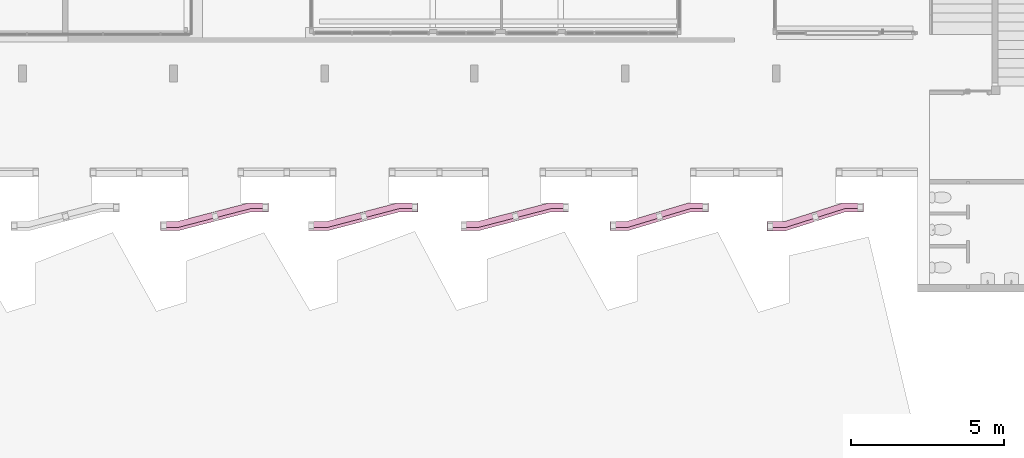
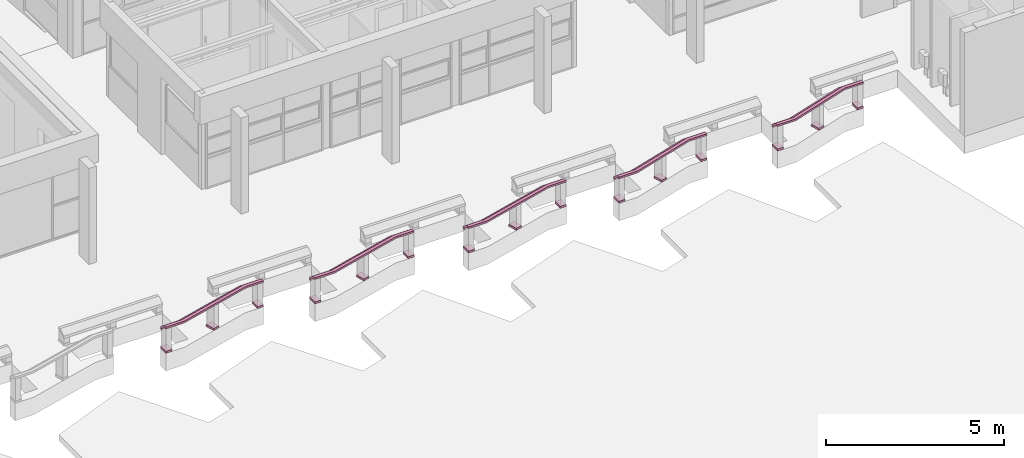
# One storey, part 116 of 117: 5 furniture elements.
"""IFC4 building model written with IfcOpenShell, lengths in metres."""

from ifc_helpers import new_model, entity, si_unit, converted_unit, derived_unit, direction, frame, origin, place, context, subcontext, project, spatial, polygons, source, transform, mapped, material, type_object, type_shapes, element, save


model = new_model("IFC4")

# Units and contexts
model_context = context("Model", 3, precision=1e-05, world=origin(), true_north=direction((6.123031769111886e-17, 1.0)))
body_context = subcontext(model_context, "Body", "Model", "MODEL_VIEW")
ifc_project = project(units=[si_unit("LENGTHUNIT", "METRE"), si_unit("AREAUNIT", "SQUARE_METRE"), si_unit("VOLUMEUNIT", "CUBIC_METRE"), converted_unit("PLANEANGLEUNIT", "DEGREE", entity("IfcRatioMeasure", 0.017453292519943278), si_unit("PLANEANGLEUNIT", "RADIAN"), dimensions=[0, 0, 0, 0, 0, 0, 0]), si_unit("MASSUNIT", "GRAM", prefix="KILO"), derived_unit("MASSDENSITYUNIT", [(si_unit("MASSUNIT", "GRAM", prefix="KILO"), 1), (si_unit("LENGTHUNIT", "METRE"), -3)]), derived_unit("MOMENTOFINERTIAUNIT", [(si_unit("LENGTHUNIT", "METRE"), 4)]), si_unit("TIMEUNIT", "SECOND"), si_unit("FREQUENCYUNIT", "HERTZ"), si_unit("THERMODYNAMICTEMPERATUREUNIT", "DEGREE_CELSIUS"), derived_unit("THERMALTRANSMITTANCEUNIT", [(si_unit("MASSUNIT", "GRAM", prefix="KILO"), 1), (si_unit("THERMODYNAMICTEMPERATUREUNIT", "KELVIN"), -1), (si_unit("TIMEUNIT", "SECOND"), -3)]), derived_unit("VOLUMETRICFLOWRATEUNIT", [(si_unit("LENGTHUNIT", "METRE"), 3), (si_unit("TIMEUNIT", "SECOND"), -1)]), derived_unit("MASSFLOWRATEUNIT", [(si_unit("MASSUNIT", "GRAM", prefix="KILO"), 1), (si_unit("TIMEUNIT", "SECOND"), -1)]), derived_unit("ROTATIONALFREQUENCYUNIT", [(si_unit("TIMEUNIT", "SECOND"), -1)]), si_unit("ELECTRICCURRENTUNIT", "AMPERE"), si_unit("ELECTRICVOLTAGEUNIT", "VOLT"), si_unit("POWERUNIT", "WATT"), si_unit("FORCEUNIT", "NEWTON", prefix="KILO"), si_unit("ILLUMINANCEUNIT", "LUX"), si_unit("LUMINOUSFLUXUNIT", "LUMEN"), si_unit("LUMINOUSINTENSITYUNIT", "CANDELA"), derived_unit("USERDEFINED", [(si_unit("MASSUNIT", "GRAM", prefix="KILO"), -1), (si_unit("LENGTHUNIT", "METRE"), -2), (si_unit("TIMEUNIT", "SECOND"), 3), (si_unit("LUMINOUSFLUXUNIT", "LUMEN"), 1)]), derived_unit("SOUNDPOWERUNIT", [(si_unit("MASSUNIT", "GRAM", prefix="KILO"), 1), (si_unit("LENGTHUNIT", "METRE"), 2), (si_unit("TIMEUNIT", "SECOND"), -3)]), derived_unit("SOUNDPRESSUREUNIT", [(si_unit("MASSUNIT", "GRAM", prefix="KILO"), 1), (si_unit("LENGTHUNIT", "METRE"), -1), (si_unit("TIMEUNIT", "SECOND"), -2)]), derived_unit("LINEARVELOCITYUNIT", [(si_unit("LENGTHUNIT", "METRE"), 1), (si_unit("TIMEUNIT", "SECOND"), -1)]), si_unit("PRESSUREUNIT", "PASCAL"), derived_unit("USERDEFINED", [(si_unit("LENGTHUNIT", "METRE"), -2), (si_unit("MASSUNIT", "GRAM", prefix="KILO"), 1), (si_unit("TIMEUNIT", "SECOND"), -2)]), derived_unit("LINEARFORCEUNIT", [(si_unit("MASSUNIT", "GRAM", prefix="KILO"), 1), (si_unit("LENGTHUNIT", "METRE"), 1), (si_unit("TIMEUNIT", "SECOND"), -2), (si_unit("LENGTHUNIT", "METRE"), -1)]), derived_unit("PLANARFORCEUNIT", [(si_unit("MASSUNIT", "GRAM", prefix="KILO"), 1), (si_unit("LENGTHUNIT", "METRE"), 1), (si_unit("TIMEUNIT", "SECOND"), -2), (si_unit("LENGTHUNIT", "METRE"), -2)])], contexts=[model_context])

# Site, building, storey
site_placement = place(None, origin())
site = spatial("IfcSite", under=ifc_project, at=site_placement, Name="Superficie", CompositionType="ELEMENT")
building_placement = place(site_placement, origin())
building = spatial("IfcBuilding", under=site, at=building_placement, CompositionType="ELEMENT")
storey_placement = place(building_placement, origin())
storey = spatial("IfcBuildingStorey", under=building, at=storey_placement, Name="Nivel 0", CompositionType="ELEMENT", Elevation=0.0)

# Furniture
ifc_material = material(Name="Madera - Listel", Category="Madera")
furniture_type_1 = type_object("IfcFurnitureType", Name="baranda andenes13:baranda andenes", AssemblyPlace="NOTDEFINED", PredefinedType="NOTDEFINED", material=ifc_material)
shared_shape_1 = source(origin(), body_context, "Body", "Tessellation", [
    polygons([(3.329999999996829, 0.9099999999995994, 0.07), (3.329999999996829, 0.6099999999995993, 0.07), (3.529999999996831, 0.6099999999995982, 0.07), (3.529999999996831, 0.9099999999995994, 0.07), (3.42999999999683, 0.9099999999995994, 0.07), (3.329999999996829, 0.9099999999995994, 0.0), (3.329999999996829, 0.6099999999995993, 0.0), (3.529999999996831, 0.6099999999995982, 0.0), (3.529999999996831, 0.9099999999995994, 0.0), (3.42999999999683, 0.9099999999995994, 0.0)], [[[1, 2, 3, 4, 5]], [[2, 1, 6, 7]], [[3, 2, 7, 8]], [[4, 3, 8, 9]], [[5, 4, 9, 10]], [[1, 5, 10, 6]], [[6, 10, 9, 8, 7]]], closed=True),
    polygons([(0.0, 0.30000000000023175, 0.0), (0.20000000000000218, 0.30000000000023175, 0.0), (0.20000000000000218, 2.306506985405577e-13, 0.0), (0.0, 2.31733565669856e-13, 0.0), (0.0, 2.31733565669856e-13, 0.07), (0.0, 0.30000000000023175, 0.07), (0.20000000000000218, 2.306506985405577e-13, 0.07), (0.20000000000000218, 0.30000000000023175, 0.07)], [[[1, 2, 3, 4]], [[5, 6, 1, 4]], [[7, 5, 4, 3]], [[8, 7, 3, 2]], [[6, 8, 2, 1]], [[6, 5, 7, 8]]], closed=True),
    polygons([(1.7262694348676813, 0.29246973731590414, 0.07), (1.6399062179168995, 0.5798751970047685, 0.07), (1.6399062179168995, 0.5798751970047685, 0.0), (1.7262694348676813, 0.29246973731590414, 0.0), (1.919853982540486, 0.3427193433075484, 0.07), (1.919853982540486, 0.3427193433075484, 0.0), (1.8445085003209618, 0.6329847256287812, 0.07), (1.8445085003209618, 0.6329847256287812, 0.0), (1.736698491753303, 0.6050000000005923, 0.07), (1.736698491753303, 0.6050000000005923, 0.0)], [[[1, 2, 3, 4]], [[5, 1, 4, 6]], [[7, 5, 6, 8]], [[9, 7, 8, 10]], [[2, 9, 10, 3]], [[3, 10, 8, 6, 4]], [[2, 1, 5, 7, 9]]], closed=True),
    polygons([(5.414335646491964e-16, 0.10384615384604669, 0.9000000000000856), (5.414335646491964e-16, 0.3000000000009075, 0.7499999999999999), (5.414335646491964e-16, 0.30000000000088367, 0.66), (5.414335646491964e-16, 0.240000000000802, 0.6600000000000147), (5.414335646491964e-16, 0.24000000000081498, 0.7100000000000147), (0.0, 0.07000000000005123, 0.8399999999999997), (0.0, 5.089475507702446e-14, 0.8400000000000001), (0.0, 1.0828671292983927e-15, 0.8999999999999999), (3.5299999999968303, 0.7138461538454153, 0.9000000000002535), (3.5299999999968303, 0.6099999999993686, 0.9000000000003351), (3.5299999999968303, 0.6099999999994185, 0.8399999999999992), (3.5299999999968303, 0.6799999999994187, 0.8399999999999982), (3.529999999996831, 0.8500000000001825, 0.7100000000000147), (3.529999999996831, 0.8500000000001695, 0.6599999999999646), (3.5299999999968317, 0.9100000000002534, 0.6599999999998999), (3.529999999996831, 0.9100000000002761, 0.7499999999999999), (2.9116984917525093, 0.9100000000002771, 0.7499999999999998), (2.9367417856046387, 0.7138461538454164, 0.9000000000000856), (2.911698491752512, 0.9100000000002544, 0.6599999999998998), (2.9193587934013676, 0.8500000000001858, 0.7100000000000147), (2.919358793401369, 0.8500000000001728, 0.6600000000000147), (2.9410629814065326, 0.6799999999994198, 0.8399999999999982), (2.9499999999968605, 0.6099999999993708, 0.9000000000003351), (2.949999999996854, 0.6099999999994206, 0.8400000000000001), (0.5867417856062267, 0.10384615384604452, 0.9000000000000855), (0.5616984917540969, 0.3000000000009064, 0.7499999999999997), (0.561698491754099, 0.30000000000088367, 0.66), (0.5693587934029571, 0.240000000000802, 0.6600000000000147), (0.5693587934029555, 0.2400000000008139, 0.7100000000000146), (0.5910629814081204, 0.07000000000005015, 0.8399999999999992), (0.5999999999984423, 4.981188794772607e-14, 0.8400000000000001), (0.5999999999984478, -1.0828671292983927e-15, 0.8999999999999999)], [[[1, 2, 3, 4, 5, 6, 7, 8]], [[9, 10, 11, 12, 13, 14, 15, 16]], [[17, 18, 9, 16]], [[19, 17, 16, 15]], [[20, 21, 14, 13]], [[22, 20, 13, 12]], [[23, 24, 11, 10]], [[2, 1, 25, 26]], [[3, 2, 26, 27]], [[4, 3, 27, 19, 15, 14, 21, 28]], [[5, 4, 28, 29]], [[6, 5, 29, 30]], [[7, 6, 30, 22, 12, 11, 24, 31]], [[8, 7, 31, 32]], [[1, 8, 32, 23, 10, 9, 18, 25]], [[26, 25, 18, 17]], [[27, 26, 17, 19]], [[29, 28, 21, 20]], [[30, 29, 20, 22]], [[32, 31, 24, 23]]], closed=True),
])
type_shapes(furniture_type_1, [shared_shape_1])
furniture_1_placement = place(storey_placement, frame((-4.212859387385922, -8.194170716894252, 0.0)))
element("IfcFurniture", 1, at=furniture_1_placement, inside=storey, type_object=furniture_type_1, material=ifc_material, Name="baranda andenes13:baranda andenes", ObjectType="baranda andenes13:baranda andenes", PredefinedType="NOTDEFINED", context=body_context, shape_type="MappedRepresentation", body=[
    mapped(shared_shape_1, transform((0.0, 0.0, 0.0), scale=1.0)),
])
furniture_type_2 = type_object("IfcFurnitureType", Name="baranda andenes14:baranda andenes", AssemblyPlace="NOTDEFINED", PredefinedType="NOTDEFINED", material=ifc_material)
shared_shape_2 = source(origin(), body_context, "Body", "Tessellation", [
    polygons([(3.3899999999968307, 0.9099999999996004, 0.07), (3.3899999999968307, 0.6099999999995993, 0.07), (3.589999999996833, 0.6099999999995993, 0.07), (3.589999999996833, 0.9099999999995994, 0.07), (3.4899999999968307, 0.9099999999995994, 0.07), (3.3899999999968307, 0.9099999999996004, 0.0), (3.3899999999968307, 0.6099999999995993, 0.0), (3.589999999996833, 0.6099999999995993, 0.0), (3.589999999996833, 0.9099999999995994, 0.0), (3.4899999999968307, 0.9099999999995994, 0.0)], [[[1, 2, 3, 4, 5]], [[2, 1, 6, 7]], [[3, 2, 7, 8]], [[4, 3, 8, 9]], [[5, 4, 9, 10]], [[1, 5, 10, 6]], [[6, 10, 9, 8, 7]]], closed=True),
    polygons([(1.6243006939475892e-15, 0.30000000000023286, 0.0), (0.2000000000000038, 0.30000000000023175, 0.0), (0.2000000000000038, 2.31733565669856e-13, 0.0), (1.6243006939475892e-15, 2.31733565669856e-13, 0.0), (1.6243006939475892e-15, 2.31733565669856e-13, 0.07), (1.6243006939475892e-15, 0.30000000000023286, 0.07), (0.2000000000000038, 2.31733565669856e-13, 0.07), (0.2000000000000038, 0.30000000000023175, 0.07)], [[[1, 2, 3, 4]], [[5, 6, 1, 4]], [[7, 5, 4, 3]], [[8, 7, 3, 2]], [[6, 8, 2, 1]], [[6, 5, 7, 8]]], closed=True),
    polygons([(1.7606208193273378, 0.28945437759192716, 0.07), (1.6846407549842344, 0.5796733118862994, 0.07), (1.6846407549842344, 0.5796733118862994, 0.0), (1.7606208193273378, 0.28945437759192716, 0.0), (1.954100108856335, 0.34010775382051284, 0.07), (1.954100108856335, 0.34010775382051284, 0.0), (1.8781200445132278, 0.6303266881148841, 0.07), (1.8781200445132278, 0.6303266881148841, 0.0), (1.7813803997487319, 0.6050000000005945, 0.07), (1.7813803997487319, 0.6050000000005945, 0.0)], [[[1, 2, 3, 4]], [[5, 1, 4, 6]], [[7, 5, 6, 8]], [[9, 7, 8, 10]], [[2, 9, 10, 3]], [[3, 10, 8, 6, 4]], [[2, 1, 5, 7, 9]]], closed=True),
    polygons([(6.767919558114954e-16, 0.10384615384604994, 0.9000000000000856), (1.0828671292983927e-15, 0.30000000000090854, 0.7499999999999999), (1.0828671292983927e-15, 0.3000000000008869, 0.66), (9.475087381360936e-16, 0.24000000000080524, 0.6600000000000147), (9.475087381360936e-16, 0.24000000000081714, 0.7100000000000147), (5.414335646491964e-16, 0.0700000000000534, 0.8399999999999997), (4.060751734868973e-16, 5.306048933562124e-14, 0.8400000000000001), (4.060751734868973e-16, 4.331468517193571e-15, 0.8999999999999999), (3.5849999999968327, 0.7138461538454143, 0.9000000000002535), (3.584999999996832, 0.6099999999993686, 0.9000000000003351), (3.584999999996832, 0.6099999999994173, 0.8399999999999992), (3.584999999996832, 0.6799999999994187, 0.8399999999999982), (3.5849999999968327, 0.8500000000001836, 0.7100000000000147), (3.5849999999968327, 0.8500000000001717, 0.6599999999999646), (3.5849999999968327, 0.9100000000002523, 0.6599999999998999), (3.5849999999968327, 0.910000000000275, 0.7499999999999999), (2.9463803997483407, 0.9100000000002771, 0.7499999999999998), (2.9716316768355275, 0.7138461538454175, 0.9000000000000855), (2.9463803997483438, 0.9100000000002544, 0.6599999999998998), (2.954104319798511, 0.8500000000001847, 0.7100000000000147), (2.954104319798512, 0.850000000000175, 0.6600000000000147), (2.9759887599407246, 0.679999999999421, 0.8399999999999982), (2.98499999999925, 0.6099999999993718, 0.9000000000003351), (2.984999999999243, 0.6099999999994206, 0.8400000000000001), (0.6416316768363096, 0.10384615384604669, 0.9000000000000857), (0.6163803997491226, 0.3000000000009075, 0.7500000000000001), (0.6163803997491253, 0.3000000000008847, 0.66), (0.6241043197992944, 0.24000000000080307, 0.6600000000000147), (0.624104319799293, 0.24000000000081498, 0.7100000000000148), (0.6459887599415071, 0.07000000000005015, 0.8400000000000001), (0.6550000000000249, 4.981188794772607e-14, 0.8400000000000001), (0.6550000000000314, 1.0828671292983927e-15, 0.8999999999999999)], [[[1, 2, 3, 4, 5, 6, 7, 8]], [[9, 10, 11, 12, 13, 14, 15, 16]], [[17, 18, 9, 16]], [[19, 17, 16, 15]], [[20, 21, 14, 13]], [[22, 20, 13, 12]], [[23, 24, 11, 10]], [[2, 1, 25, 26]], [[3, 2, 26, 27]], [[4, 3, 27, 19, 15, 14, 21, 28]], [[5, 4, 28, 29]], [[6, 5, 29, 30]], [[7, 6, 30, 22, 12, 11, 24, 31]], [[8, 7, 31, 32]], [[1, 8, 32, 23, 10, 9, 18, 25]], [[26, 25, 18, 17]], [[27, 26, 17, 19]], [[29, 28, 21, 20]], [[30, 29, 20, 22]], [[32, 31, 24, 23]]], closed=True),
])
type_shapes(furniture_type_2, [shared_shape_2])
furniture_2_placement = place(storey_placement, frame((0.627140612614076, -8.194170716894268, 0.0)))
element("IfcFurniture", 2, at=furniture_2_placement, inside=storey, type_object=furniture_type_2, material=ifc_material, Name="baranda andenes14:baranda andenes", ObjectType="baranda andenes14:baranda andenes", PredefinedType="NOTDEFINED", context=body_context, shape_type="MappedRepresentation", body=[
    mapped(shared_shape_2, transform((0.0, 0.0, 0.0), scale=1.0)),
])
furniture_type_3 = type_object("IfcFurnitureType", Name="baranda andenes15:baranda andenes", AssemblyPlace="NOTDEFINED", PredefinedType="NOTDEFINED", material=ifc_material)
shared_shape_3 = source(origin(), body_context, "Body", "Tessellation", [
    polygons([(3.3299999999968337, 0.909999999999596, 0.07), (3.3299999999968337, 0.6099999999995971, 0.07), (3.5299999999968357, 0.609999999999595, 0.07), (3.5299999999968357, 0.909999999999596, 0.07), (3.429999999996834, 0.909999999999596, 0.07), (3.3299999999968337, 0.909999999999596, 0.0), (3.3299999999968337, 0.6099999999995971, 0.0), (3.5299999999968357, 0.609999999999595, 0.0), (3.5299999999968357, 0.909999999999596, 0.0), (3.429999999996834, 0.909999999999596, 0.0)], [[[1, 2, 3, 4, 5]], [[2, 1, 6, 7]], [[3, 2, 7, 8]], [[4, 3, 8, 9]], [[5, 4, 9, 10]], [[1, 5, 10, 6]], [[6, 10, 9, 8, 7]]], closed=True),
    polygons([(5.4143356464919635e-15, 0.30000000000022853, 0.0), (0.2000000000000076, 0.30000000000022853, 0.0), (0.2000000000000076, 2.274020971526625e-13, 0.0), (5.4143356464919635e-15, 2.295678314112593e-13, 0.0), (5.4143356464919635e-15, 2.295678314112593e-13, 0.07), (5.4143356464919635e-15, 0.30000000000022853, 0.07), (0.2000000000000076, 2.274020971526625e-13, 0.07), (0.2000000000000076, 0.30000000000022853, 0.07)], [[[1, 2, 3, 4]], [[5, 6, 1, 4]], [[7, 5, 4, 3]], [[8, 7, 3, 2]], [[6, 8, 2, 1]], [[6, 5, 7, 8]]], closed=True),
    polygons([(1.7262694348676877, 0.292469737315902, 0.07), (1.639906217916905, 0.5798751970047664, 0.07), (1.639906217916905, 0.5798751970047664, 0.0), (1.7262694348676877, 0.292469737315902, 0.0), (1.9198539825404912, 0.34271934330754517, 0.07), (1.9198539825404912, 0.34271934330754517, 0.0), (1.8445085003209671, 0.6329847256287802, 0.07), (1.8445085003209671, 0.6329847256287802, 0.0), (1.7366984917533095, 0.6050000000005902, 0.07), (1.7366984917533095, 0.6050000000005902, 0.0)], [[[1, 2, 3, 4]], [[5, 1, 4, 6]], [[7, 5, 6, 8]], [[9, 7, 8, 10]], [[2, 9, 10, 3]], [[3, 10, 8, 6, 4]], [[2, 1, 5, 7, 9]]], closed=True),
    polygons([(2.1657342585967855e-15, 0.10384615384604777, 0.9000000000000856), (2.1657342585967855e-15, 0.30000000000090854, 0.7499999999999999), (2.1657342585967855e-15, 0.30000000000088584, 0.66), (2.1657342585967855e-15, 0.24000000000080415, 0.6600000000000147), (2.1657342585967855e-15, 0.24000000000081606, 0.7100000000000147), (2.1657342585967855e-15, 0.0700000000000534, 0.8399999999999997), (2.1657342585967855e-15, 5.1977622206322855e-14, 0.8400000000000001), (2.1657342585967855e-15, 2.1657342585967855e-15, 0.8999999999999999), (3.5299999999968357, 0.7138461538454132, 0.900000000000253), (3.5299999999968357, 0.6099999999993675, 0.9000000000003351), (3.5299999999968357, 0.6099999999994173, 0.8399999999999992), (3.5299999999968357, 0.6799999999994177, 0.8399999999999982), (3.529999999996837, 0.8500000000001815, 0.7100000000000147), (3.529999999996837, 0.8500000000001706, 0.6599999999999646), (3.529999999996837, 0.91000000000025, 0.6599999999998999), (3.529999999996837, 0.9100000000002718, 0.7499999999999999), (2.911698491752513, 0.9100000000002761, 0.7500000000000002), (2.936741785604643, 0.7138461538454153, 0.9000000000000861), (2.911698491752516, 0.9100000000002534, 0.6599999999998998), (2.919358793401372, 0.8500000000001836, 0.7100000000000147), (2.9193587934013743, 0.8500000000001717, 0.6600000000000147), (2.9410629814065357, 0.679999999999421, 0.8399999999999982), (2.949999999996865, 0.6099999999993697, 0.9000000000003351), (2.9499999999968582, 0.6099999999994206, 0.8400000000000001), (0.586741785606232, 0.10384615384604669, 0.9000000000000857), (0.5616984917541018, 0.3000000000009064, 0.7499999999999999), (0.561698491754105, 0.3000000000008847, 0.66), (0.569358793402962, 0.24000000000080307, 0.6600000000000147), (0.5693587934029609, 0.2400000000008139, 0.7100000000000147), (0.5910629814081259, 0.07000000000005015, 0.8399999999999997), (0.5999999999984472, 4.981188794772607e-14, 0.8400000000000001), (0.5999999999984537, 0.0, 0.8999999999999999)], [[[1, 2, 3, 4, 5, 6, 7, 8]], [[9, 10, 11, 12, 13, 14, 15, 16]], [[17, 18, 9, 16]], [[19, 17, 16, 15]], [[20, 21, 14, 13]], [[22, 20, 13, 12]], [[23, 24, 11, 10]], [[2, 1, 25, 26]], [[3, 2, 26, 27]], [[4, 3, 27, 19, 15, 14, 21, 28]], [[5, 4, 28, 29]], [[6, 5, 29, 30]], [[7, 6, 30, 22, 12, 11, 24, 31]], [[8, 7, 31, 32]], [[1, 8, 32, 23, 10, 9, 18, 25]], [[26, 25, 18, 17]], [[27, 26, 17, 19]], [[29, 28, 21, 20]], [[30, 29, 20, 22]], [[32, 31, 24, 23]]], closed=True),
])
type_shapes(furniture_type_3, [shared_shape_3])
furniture_3_placement = place(storey_placement, frame((5.62714061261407, -8.19417071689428, 0.0)))
element("IfcFurniture", 3, at=furniture_3_placement, inside=storey, type_object=furniture_type_3, material=ifc_material, Name="baranda andenes15:baranda andenes", ObjectType="baranda andenes15:baranda andenes", PredefinedType="NOTDEFINED", context=body_context, shape_type="MappedRepresentation", body=[
    mapped(shared_shape_3, transform((0.0, 0.0, 0.0), scale=1.0)),
])
furniture_type_4 = type_object("IfcFurnitureType", Name="baranda andenes16:baranda andenes", AssemblyPlace="NOTDEFINED", PredefinedType="NOTDEFINED", material=ifc_material)
shared_shape_4 = source(origin(), body_context, "Body", "Tessellation", [
    polygons([(3.019999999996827, 0.9099999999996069, 0.07), (3.019999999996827, 0.6099999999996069, 0.07), (3.2199999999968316, 0.6099999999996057, 0.07), (3.2199999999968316, 0.9099999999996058, 0.07), (3.1199999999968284, 0.9099999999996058, 0.07), (3.019999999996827, 0.9099999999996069, 0.0), (3.019999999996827, 0.6099999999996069, 0.0), (3.2199999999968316, 0.6099999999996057, 0.0), (3.2199999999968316, 0.9099999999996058, 0.0), (3.1199999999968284, 0.9099999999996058, 0.0)], [[[1, 2, 3, 4, 5]], [[2, 1, 6, 7]], [[3, 2, 7, 8]], [[4, 3, 8, 9]], [[5, 4, 9, 10]], [[1, 5, 10, 6]], [[6, 10, 9, 8, 7]]], closed=True),
    polygons([(0.0, 0.30000000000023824, 0.0), (0.20000000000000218, 0.3000000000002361, 0.0), (0.20000000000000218, 2.37147901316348e-13, 0.0), (0.0, 2.382307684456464e-13, 0.0), (0.0, 2.382307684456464e-13, 0.07), (0.0, 0.30000000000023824, 0.07), (0.20000000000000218, 2.37147901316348e-13, 0.07), (0.20000000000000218, 0.3000000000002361, 0.07)], [[[1, 2, 3, 4]], [[5, 6, 1, 4]], [[7, 5, 4, 3]], [[8, 7, 3, 2]], [[6, 8, 2, 1]], [[6, 5, 7, 8]]], closed=True),
    polygons([(1.5614646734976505, 0.28891302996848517, 0.07), (1.4751304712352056, 0.576221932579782, 0.07), (1.4751304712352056, 0.576221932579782, 0.0), (1.5614646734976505, 0.28891302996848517, 0.0), (1.7530039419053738, 0.3464691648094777, 0.07), (1.7530039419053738, 0.3464691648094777, 0.0), (1.6666697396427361, 0.6337780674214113, 0.07), (1.6666697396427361, 0.6337780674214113, 0.0), (1.570900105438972, 0.6050000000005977, 0.07), (1.570900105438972, 0.6050000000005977, 0.0)], [[[1, 2, 3, 4]], [[5, 1, 4, 6]], [[7, 5, 6, 8]], [[9, 7, 8, 10]], [[2, 9, 10, 3]], [[3, 10, 8, 6, 4]], [[2, 1, 5, 7, 9]]], closed=True),
    polygons([(1.0828671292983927e-14, 0.10384615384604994, 0.9000000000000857), (1.0828671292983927e-14, 0.3000000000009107, 0.7500000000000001), (1.0828671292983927e-14, 0.300000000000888, 0.66), (1.0828671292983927e-14, 0.24000000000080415, 0.6600000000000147), (1.0828671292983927e-14, 0.24000000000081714, 0.7100000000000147), (1.0828671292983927e-14, 0.0700000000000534, 0.8399999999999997), (1.0828671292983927e-14, 5.306048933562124e-14, 0.8400000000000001), (1.0828671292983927e-14, 3.2486013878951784e-15, 0.8999999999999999), (3.2199999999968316, 0.7138461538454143, 0.9000000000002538), (3.2199999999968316, 0.6099999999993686, 0.9000000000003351), (3.2199999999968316, 0.6099999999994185, 0.8399999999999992), (3.2199999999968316, 0.6799999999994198, 0.8399999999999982), (3.2199999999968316, 0.8500000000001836, 0.7100000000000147), (3.2199999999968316, 0.8500000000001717, 0.6599999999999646), (3.2199999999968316, 0.9100000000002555, 0.6599999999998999), (3.2199999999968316, 0.9100000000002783, 0.7499999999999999), (2.5859001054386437, 0.9100000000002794, 0.7500000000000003), (2.6147346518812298, 0.7138461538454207, 0.9000000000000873), (2.5859001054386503, 0.9100000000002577, 0.6599999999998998), (2.594720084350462, 0.8500000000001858, 0.7100000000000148), (2.594720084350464, 0.850000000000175, 0.6600000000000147), (2.6197100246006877, 0.6799999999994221, 0.8399999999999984), (2.6299999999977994, 0.6099999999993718, 0.9000000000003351), (2.629999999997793, 0.6099999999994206, 0.8400000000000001), (0.5847346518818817, 0.10384615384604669, 0.9000000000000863), (0.5559001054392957, 0.30000000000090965, 0.7499999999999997), (0.5559001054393, 0.30000000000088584, 0.66), (0.5647200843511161, 0.24000000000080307, 0.6600000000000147), (0.5647200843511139, 0.24000000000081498, 0.7100000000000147), (0.5897100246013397, 0.07000000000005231, 0.8399999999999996), (0.599999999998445, 5.089475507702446e-14, 0.8400000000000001), (0.5999999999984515, 0.0, 0.8999999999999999)], [[[1, 2, 3, 4, 5, 6, 7, 8]], [[9, 10, 11, 12, 13, 14, 15, 16]], [[17, 18, 9, 16]], [[19, 17, 16, 15]], [[20, 21, 14, 13]], [[22, 20, 13, 12]], [[23, 24, 11, 10]], [[2, 1, 25, 26]], [[3, 2, 26, 27]], [[4, 3, 27, 19, 15, 14, 21, 28]], [[5, 4, 28, 29]], [[6, 5, 29, 30]], [[7, 6, 30, 22, 12, 11, 24, 31]], [[8, 7, 31, 32]], [[1, 8, 32, 23, 10, 9, 18, 25]], [[26, 25, 18, 17]], [[27, 26, 17, 19]], [[29, 28, 21, 20]], [[30, 29, 20, 22]], [[32, 31, 24, 23]]], closed=True),
])
type_shapes(furniture_type_4, [shared_shape_4])
furniture_4_placement = place(storey_placement, frame((10.517140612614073, -8.194170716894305, 0.0)))
element("IfcFurniture", 4, at=furniture_4_placement, inside=storey, type_object=furniture_type_4, material=ifc_material, Name="baranda andenes16:baranda andenes", ObjectType="baranda andenes16:baranda andenes", PredefinedType="NOTDEFINED", context=body_context, shape_type="MappedRepresentation", body=[
    mapped(shared_shape_4, transform((0.0, 0.0, 0.0), scale=1.0)),
])
furniture_type_5 = type_object("IfcFurnitureType", Name="baranda andenes17:baranda andenes", AssemblyPlace="NOTDEFINED", PredefinedType="NOTDEFINED", material=ifc_material)
shared_shape_5 = source(origin(), body_context, "Body", "Tessellation", [
    polygons([(2.954658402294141, 0.9199697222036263, 0.07), (2.954658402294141, 0.6199697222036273, 0.07), (3.154658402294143, 0.6199697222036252, 0.07), (3.154658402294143, 0.9199697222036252, 0.07), (3.054658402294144, 0.9199697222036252, 0.07), (2.954658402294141, 0.9199697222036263, 0.0), (2.954658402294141, 0.6199697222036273, 0.0), (3.154658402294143, 0.6199697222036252, 0.0), (3.154658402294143, 0.9199697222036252, 0.0), (3.054658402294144, 0.9199697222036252, 0.0)], [[[1, 2, 3, 4, 5]], [[2, 1, 6, 7]], [[3, 2, 7, 8]], [[4, 3, 8, 9]], [[5, 4, 9, 10]], [[1, 5, 10, 6]], [[6, 10, 9, 8, 7]]], closed=True),
    polygons([(1.5983118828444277e-12, 0.3000000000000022, 0.0), (0.20000000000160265, 0.3000000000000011, 0.0), (0.20000000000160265, 1.0828671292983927e-15, 0.0), (1.5983118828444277e-12, 1.0828671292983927e-15, 0.0), (1.5983118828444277e-12, 1.0828671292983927e-15, 0.07), (1.5983118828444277e-12, 0.3000000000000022, 0.07), (0.20000000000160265, 1.0828671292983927e-15, 0.07), (0.20000000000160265, 0.3000000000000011, 0.07)], [[[1, 2, 3, 4]], [[5, 6, 1, 4]], [[7, 5, 4, 3]], [[8, 7, 3, 2]], [[6, 8, 2, 1]], [[6, 5, 7, 8]]], closed=True),
    polygons([(1.5240693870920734, 0.2937877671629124, 0.07), (1.4331741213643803, 0.579686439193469, 0.07), (1.4331741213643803, 0.579686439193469, 0.0), (1.5240693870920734, 0.2937877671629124, 0.0), (1.715608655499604, 0.3513439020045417, 0.07), (1.715608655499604, 0.3513439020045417, 0.0), (1.6237491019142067, 0.6402756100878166, 0.07), (1.6237491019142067, 0.6402756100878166, 0.0), (1.5284736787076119, 0.6099848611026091, 0.07), (1.5284736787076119, 0.6099848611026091, 0.0)], [[[1, 2, 3, 4]], [[5, 1, 4, 6]], [[7, 5, 6, 8]], [[9, 7, 8, 10]], [[2, 9, 10, 3]], [[3, 10, 8, 6, 4]], [[2, 1, 5, 7, 9]]], closed=True),
    polygons([(4.331468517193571e-15, 0.10384615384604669, 0.9000000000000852), (6.497202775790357e-15, 0.30000000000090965, 0.7499999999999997), (6.497202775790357e-15, 0.30000000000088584, 0.6599999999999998), (4.331468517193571e-15, 0.24000000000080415, 0.6600000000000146), (4.331468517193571e-15, 0.24000000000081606, 0.7100000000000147), (4.331468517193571e-15, 0.07000000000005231, 0.8399999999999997), (4.331468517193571e-15, 5.1977622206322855e-14, 0.8399999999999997), (4.331468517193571e-15, 1.0828671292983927e-15, 0.8999999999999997), (3.1538916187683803, 0.7238158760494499, 0.9000000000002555), (3.1538916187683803, 0.6199697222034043, 0.9000000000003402), (3.1538916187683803, 0.6199697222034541, 0.8399999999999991), (3.1538916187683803, 0.6899697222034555, 0.839999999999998), (3.1538916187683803, 0.8599697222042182, 0.7100000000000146), (3.1538916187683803, 0.8599697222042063, 0.6599999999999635), (3.1538916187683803, 0.919969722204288, 0.6599999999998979), (3.1538916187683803, 0.9199697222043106, 0.7499999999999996), (2.50348881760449, 0.9199697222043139, 0.7499999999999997), (2.5339197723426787, 0.7238158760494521, 0.9000000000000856), (2.5034888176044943, 0.9199697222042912, 0.6599999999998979), (2.5127971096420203, 0.8599697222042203, 0.7100000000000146), (2.5127971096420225, 0.8599697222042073, 0.6600000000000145), (2.539170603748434, 0.6899697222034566, 0.8399999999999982), (2.5500302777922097, 0.6199697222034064, 0.9000000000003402), (2.550030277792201, 0.6199697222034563, 0.8399999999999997), (0.5838894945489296, 0.1038461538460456, 0.9000000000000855), (0.5534585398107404, 0.3000000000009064, 0.7499999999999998), (0.5534585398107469, 0.30000000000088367, 0.6599999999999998), (0.5627668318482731, 0.240000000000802, 0.6600000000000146), (0.5627668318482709, 0.2400000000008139, 0.7100000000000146), (0.5891403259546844, 0.07000000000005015, 0.8399999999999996), (0.5999999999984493, 4.8729020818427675e-14, 0.8399999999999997), (0.5999999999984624, 0.0, 0.8999999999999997)], [[[1, 2, 3, 4, 5, 6, 7, 8]], [[9, 10, 11, 12, 13, 14, 15, 16]], [[17, 18, 9, 16]], [[19, 17, 16, 15]], [[20, 21, 14, 13]], [[22, 20, 13, 12]], [[23, 24, 11, 10]], [[2, 1, 25, 26]], [[3, 2, 26, 27]], [[4, 3, 27, 19, 15, 14, 21, 28]], [[5, 4, 28, 29]], [[6, 5, 29, 30]], [[7, 6, 30, 22, 12, 11, 24, 31]], [[8, 7, 31, 32]], [[1, 8, 32, 23, 10, 9, 18, 25]], [[26, 25, 18, 17]], [[27, 26, 17, 19]], [[29, 28, 21, 20]], [[30, 29, 20, 22]], [[32, 31, 24, 23]]], closed=True),
])
type_shapes(furniture_type_5, [shared_shape_5])
furniture_5_placement = place(storey_placement, frame((15.662140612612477, -8.204140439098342, 0.0)))
element("IfcFurniture", 5, at=furniture_5_placement, inside=storey, type_object=furniture_type_5, material=ifc_material, Name="baranda andenes17:baranda andenes", ObjectType="baranda andenes17:baranda andenes", PredefinedType="NOTDEFINED", context=body_context, shape_type="MappedRepresentation", body=[
    mapped(shared_shape_5, transform((0.0, 0.0, 0.0), scale=1.0)),
])

save(model, "model.ifc")
